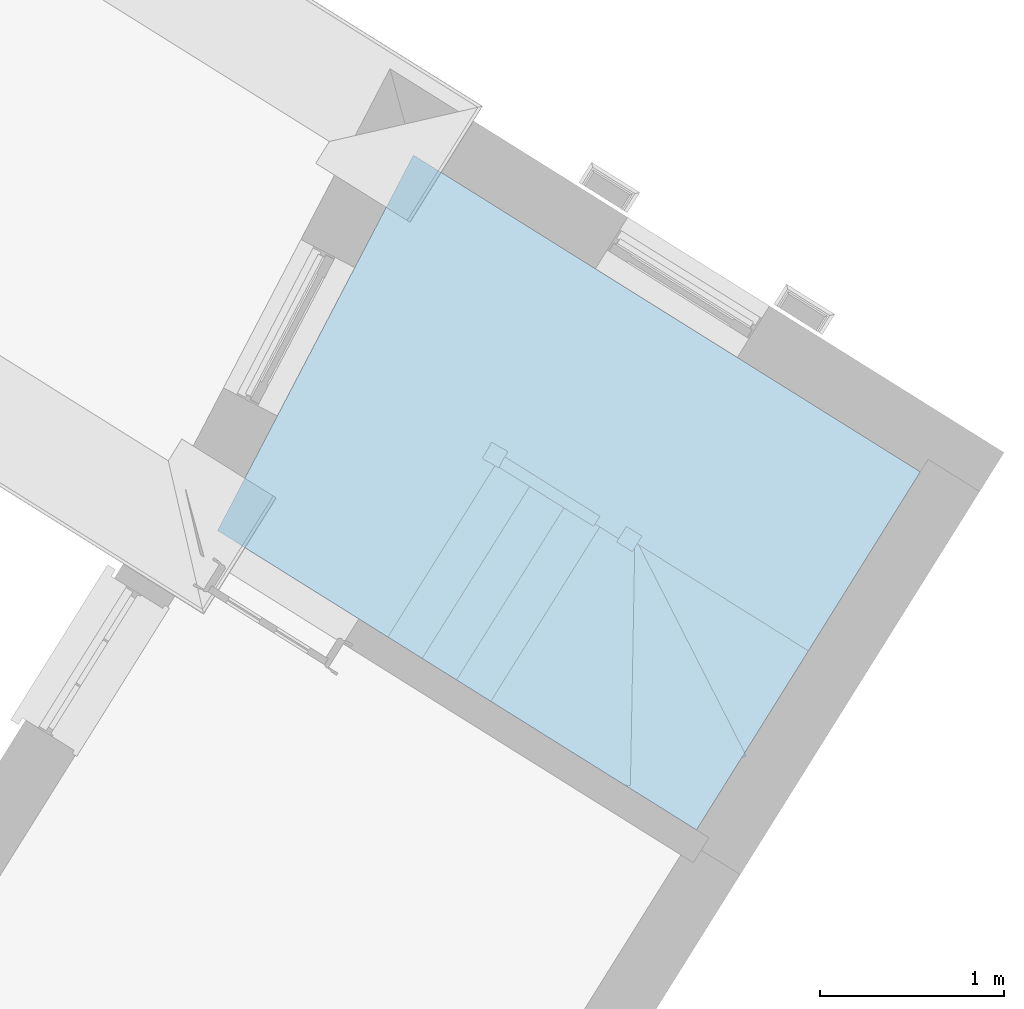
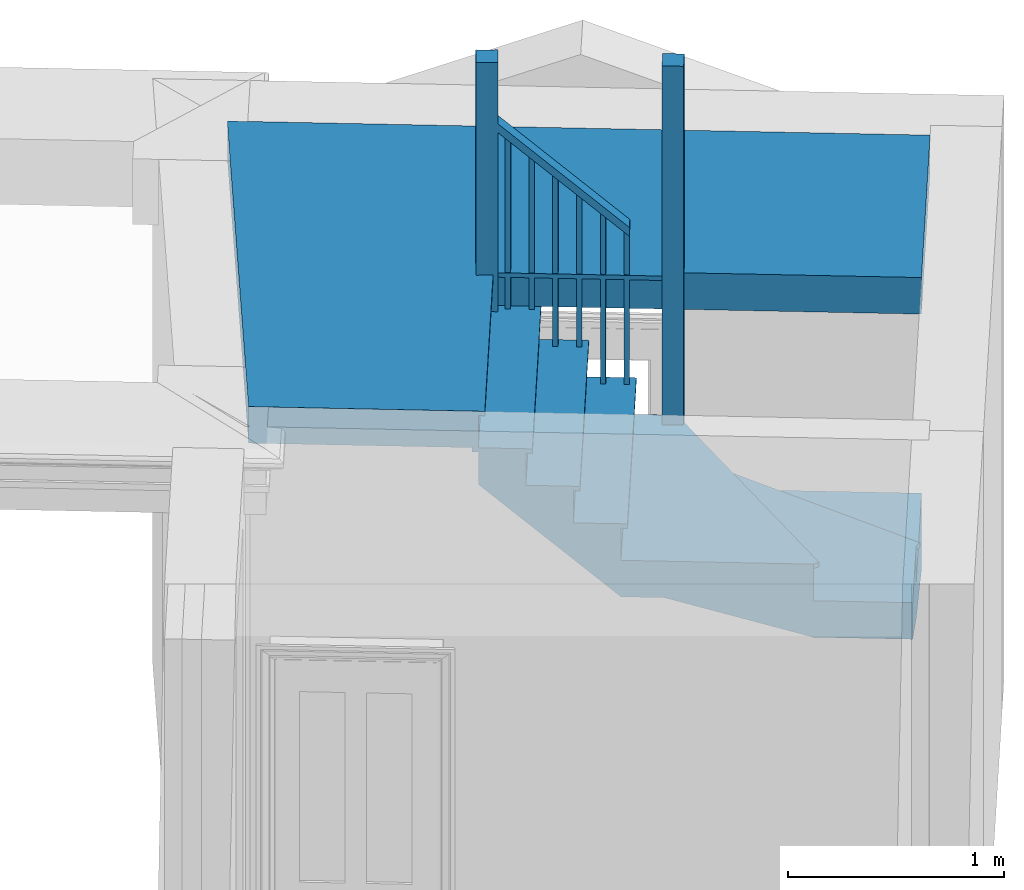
# One storey, part 5 of 5: 1 stair.
"""IFC4 building model written with IfcOpenShell, lengths in metres."""

from ifc_helpers import new_model, si_unit, frame, origin, origin_with_axes, place, context, subcontext, project, spatial, faceted_brep, element, save


model = new_model("IFC4")

# Units and contexts
model_context = context("Model", 3, world=origin_with_axes())
body_context = subcontext(model_context, "Body", "Model", "MODEL_VIEW")
ifc_project = project(units=[si_unit("PLANEANGLEUNIT", "RADIAN"), si_unit("MASSUNIT", "GRAM", prefix="KILO"), si_unit("FORCEUNIT", "NEWTON", prefix="KILO"), si_unit("LENGTHUNIT", "METRE"), si_unit("AREAUNIT", "SQUARE_METRE"), si_unit("VOLUMEUNIT", "CUBIC_METRE")], contexts=[model_context, model_context])

# Sites, building, storey
site_1_placement = place(None, origin_with_axes())
site_1 = spatial("IfcSite", under=ifc_project, at=site_1_placement, Name="Tamar")
site_2_placement = place(site_1_placement, origin_with_axes())
site_2 = spatial("IfcSite", under=site_1, at=site_2_placement, Name="Site plot-3", CompositionType="ELEMENT")
building_placement = place(None, origin_with_axes())
building = spatial("IfcBuilding", under=site_2, at=building_placement, Name="Building plot-3", CompositionType="ELEMENT")
storey_placement = place(None, frame((0.0, 0.0, 24.5), z_axis=(0.0, 0.0, 1.0), x_axis=(1.0, 0.0, 0.0)))
storey = spatial("IfcBuildingStorey", under=building, at=storey_placement, Name="plot-3 0", CompositionType="ELEMENT", Elevation=24.5)

# Stair
stair_placement = place(None, origin())
element("IfcStair", 1, at=stair_placement, inside=storey, Name="Stair", PredefinedType="NOTDEFINED", context=body_context, shape_type="Brep", body=[
    faceted_brep([(217.91361, 286.498894, 27.59375), (216.895579, 287.029978, 27.59375), (216.895579, 287.029978, 27.8), (217.91361, 286.498894, 27.8)], [[[0, 1, 2, 3]], [[1, 0, 3, 2]]]),
    faceted_brep([(217.91361, 286.498894, 27.775), (217.93905, 286.482994, 27.775), (217.91361, 286.498894, 27.8), (217.93905, 286.482994, 27.8)], [[[0, 1, 2]], [[1, 0, 2]], [[1, 3, 2]], [[3, 1, 2]]]),
    faceted_brep([(217.934815, 286.431438, 29.0), (217.981067, 286.520099, 29.0), (217.892406, 286.566351, 29.0), (217.846154, 286.47769, 29.0), (217.846154, 286.47769, 27.8), (217.892406, 286.566351, 27.8), (217.981067, 286.520099, 27.8), (217.934815, 286.431438, 27.8)], [[[0, 1, 2, 3]], [[4, 5, 6, 7]], [[7, 6, 1, 0]], [[6, 5, 2, 1]], [[5, 4, 3, 2]], [[4, 7, 0, 3]]]),
    faceted_brep([(217.91361, 286.498894, 27.8), (216.895579, 287.029978, 27.8), (216.404283, 286.088215, 27.8), (217.305017, 285.525215, 27.8), (217.305017, 285.525215, 27.59375), (216.404283, 286.088215, 27.59375), (216.895579, 287.029978, 27.59375), (217.91361, 286.498894, 27.59375)], [[[0, 1, 2, 3]], [[4, 5, 6, 7]], [[7, 6, 1, 0]], [[6, 5, 2, 1]], [[5, 4, 3, 2]], [[4, 7, 0, 3]]]),
    faceted_brep([(217.330456, 285.509315, 27.775), (217.330456, 285.509315, 27.8), (217.305017, 285.525215, 27.775), (217.93905, 286.482994, 27.8), (217.93905, 286.482994, 27.775), (217.91361, 286.498894, 27.775), (217.305017, 285.525215, 27.8), (217.91361, 286.498894, 27.8)], [[[0, 1, 2]], [[3, 4, 5]], [[2, 1, 6]], [[3, 5, 7]], [[6, 1, 3, 7]], [[2, 6, 7, 5]], [[0, 2, 5, 4]], [[1, 0, 4, 3]]]),
    faceted_brep([(217.934815, 286.431438, 27.8), (217.981067, 286.520099, 27.8), (217.892406, 286.566351, 27.8), (217.846154, 286.47769, 27.8), (217.846154, 286.47769, 27.3), (217.892406, 286.566351, 27.3), (217.981067, 286.520099, 27.3), (217.934815, 286.431438, 27.3)], [[[0, 1, 2, 3]], [[4, 5, 6, 7]], [[7, 6, 1, 0]], [[6, 5, 2, 1]], [[5, 4, 3, 2]], [[4, 7, 0, 3]]]),
    faceted_brep([(217.91361, 286.498894, 27.59375), (217.305017, 285.525215, 27.59375), (217.491573, 285.40861, 27.59375), (218.100166, 286.382289, 27.59375), (218.100166, 286.382289, 27.18125), (217.491573, 285.40861, 27.18125), (217.305017, 285.525215, 27.3875), (217.91361, 286.498894, 27.3875)], [[[0, 1, 2, 3]], [[4, 5, 6, 7]], [[7, 6, 1, 0]], [[1, 6, 5, 2]], [[5, 4, 3, 2]], [[3, 4, 7, 0]]]),
    faceted_brep([(217.491573, 285.40861, 27.56875), (217.517012, 285.392709, 27.56875), (217.491573, 285.40861, 27.59375), (217.279578, 285.541116, 27.56875), (217.305017, 285.525215, 27.56875), (217.305017, 285.525215, 27.59375), (217.517012, 285.392709, 27.59375), (217.279578, 285.541116, 27.59375), (218.141506, 286.391827, 27.59375), (218.100166, 286.382289, 27.59375), (218.100166, 286.382289, 27.56875), (218.141506, 286.391827, 27.56875), (217.904072, 286.540235, 27.59375), (217.91361, 286.498894, 27.59375), (217.91361, 286.498894, 27.56875), (217.904072, 286.540235, 27.56875)], [[[0, 1, 2]], [[3, 4, 5]], [[1, 6, 2]], [[7, 3, 5]], [[2, 6, 8, 9]], [[0, 2, 9, 10]], [[1, 0, 10, 11]], [[6, 1, 11, 8]], [[9, 8, 12, 13]], [[10, 9, 13, 14]], [[11, 10, 14, 15]], [[8, 11, 15, 12]], [[13, 12, 7, 5]], [[14, 13, 5, 4]], [[15, 14, 4, 3]], [[12, 15, 3, 7]]]),
    faceted_brep([(218.100166, 286.382289, 28.49375), (218.078967, 286.395539, 28.49375), (218.065716, 286.37434, 28.49375), (218.086916, 286.361089, 28.49375), (218.086916, 286.361089, 27.59375), (218.065716, 286.37434, 27.59375), (218.078967, 286.395539, 27.59375), (218.100166, 286.382289, 27.59375)], [[[0, 1, 2, 3]], [[4, 5, 6, 7]], [[7, 6, 1, 0]], [[6, 5, 2, 1]], [[5, 4, 3, 2]], [[4, 7, 0, 3]]]),
    faceted_brep([(218.006888, 286.440591, 28.596875), (217.985689, 286.453842, 28.596875), (217.972438, 286.432643, 28.596875), (217.993638, 286.419392, 28.596875), (217.993638, 286.419392, 27.59375), (217.972438, 286.432643, 27.59375), (217.985689, 286.453842, 27.59375), (218.006888, 286.440591, 27.59375)], [[[0, 1, 2, 3]], [[4, 5, 6, 7]], [[7, 6, 1, 0]], [[6, 5, 2, 1]], [[5, 4, 3, 2]], [[4, 7, 0, 3]]]),
    faceted_brep([(218.076315, 286.344129, 28.44375), (218.110767, 286.399248, 28.44375), (218.110767, 286.399248, 28.49375), (218.076315, 286.344129, 28.49375), (217.924211, 286.515854, 28.65), (217.889759, 286.460735, 28.65), (217.889759, 286.460735, 28.7), (217.924211, 286.515854, 28.7)], [[[0, 1, 2, 3]], [[4, 5, 6, 7]], [[0, 5, 4, 1]], [[3, 2, 7, 6]], [[0, 3, 6, 5]], [[2, 1, 4, 7]]]),
    faceted_brep([(218.100166, 286.382289, 27.3875), (217.491573, 285.40861, 27.3875), (217.678129, 285.292004, 27.3875), (218.286722, 286.265683, 27.3875), (218.286722, 286.265683, 26.975), (217.678129, 285.292004, 26.975), (217.491573, 285.40861, 27.18125), (218.100166, 286.382289, 27.18125)], [[[0, 1, 2, 3]], [[4, 5, 6, 7]], [[7, 6, 1, 0]], [[1, 6, 5, 2]], [[5, 4, 3, 2]], [[3, 4, 7, 0]]]),
    faceted_brep([(217.678129, 285.292004, 27.3625), (217.703568, 285.276103, 27.3625), (217.678129, 285.292004, 27.3875), (217.466133, 285.42451, 27.3625), (217.491573, 285.40861, 27.3625), (217.491573, 285.40861, 27.3875), (217.703568, 285.276103, 27.3875), (217.466133, 285.42451, 27.3875), (218.328062, 286.275221, 27.3875), (218.286722, 286.265683, 27.3875), (218.286722, 286.265683, 27.3625), (218.328062, 286.275221, 27.3625), (218.090628, 286.423629, 27.3875), (218.100166, 286.382289, 27.3875), (218.100166, 286.382289, 27.3625), (218.090628, 286.423629, 27.3625)], [[[0, 1, 2]], [[3, 4, 5]], [[1, 6, 2]], [[7, 3, 5]], [[2, 6, 8, 9]], [[0, 2, 9, 10]], [[1, 0, 10, 11]], [[6, 1, 11, 8]], [[9, 8, 12, 13]], [[10, 9, 13, 14]], [[11, 10, 14, 15]], [[8, 11, 15, 12]], [[13, 12, 7, 5]], [[14, 13, 5, 4]], [[15, 14, 4, 3]], [[12, 15, 3, 7]]]),
    faceted_brep([(218.286722, 286.265683, 28.2875), (218.265523, 286.278933, 28.2875), (218.252272, 286.257734, 28.2875), (218.273471, 286.244483, 28.2875), (218.273471, 286.244483, 27.3875), (218.252272, 286.257734, 27.3875), (218.265523, 286.278933, 27.3875), (218.286722, 286.265683, 27.3875)], [[[0, 1, 2, 3]], [[4, 5, 6, 7]], [[7, 6, 1, 0]], [[6, 5, 2, 1]], [[5, 4, 3, 2]], [[4, 7, 0, 3]]]),
    faceted_brep([(218.193444, 286.323986, 28.390625), (218.172245, 286.337236, 28.390625), (218.158994, 286.316037, 28.390625), (218.180193, 286.302786, 28.390625), (218.180193, 286.302786, 27.3875), (218.158994, 286.316037, 27.3875), (218.172245, 286.337236, 27.3875), (218.193444, 286.323986, 27.3875)], [[[0, 1, 2, 3]], [[4, 5, 6, 7]], [[7, 6, 1, 0]], [[6, 5, 2, 1]], [[5, 4, 3, 2]], [[4, 7, 0, 3]]]),
    faceted_brep([(218.262871, 286.227524, 28.2375), (218.297323, 286.282642, 28.2375), (218.297323, 286.282642, 28.2875), (218.262871, 286.227524, 28.2875), (218.110767, 286.399248, 28.44375), (218.076315, 286.344129, 28.44375), (218.076315, 286.344129, 28.49375), (218.110767, 286.399248, 28.49375)], [[[0, 1, 2, 3]], [[4, 5, 6, 7]], [[0, 5, 4, 1]], [[3, 2, 7, 6]], [[0, 3, 6, 5]], [[2, 1, 4, 7]]]),
    faceted_brep([(218.286722, 286.265683, 27.18125), (217.678129, 285.292004, 27.18125), (217.864684, 285.175398, 27.18125), (218.473278, 286.149077, 27.18125), (218.473278, 286.149077, 26.76875), (217.864684, 285.175398, 26.76875), (217.678129, 285.292004, 26.975), (218.286722, 286.265683, 26.975)], [[[0, 1, 2, 3]], [[4, 5, 6, 7]], [[7, 6, 1, 0]], [[1, 6, 5, 2]], [[5, 4, 3, 2]], [[3, 4, 7, 0]]]),
    faceted_brep([(217.890124, 285.159497, 27.15625), (217.890124, 285.159497, 27.18125), (217.864684, 285.175398, 27.15625), (217.652689, 285.307905, 27.18125), (217.652689, 285.307905, 27.15625), (217.678129, 285.292004, 27.15625), (217.864684, 285.175398, 27.18125), (217.678129, 285.292004, 27.18125), (218.514618, 286.158616, 27.18125), (218.473278, 286.149077, 27.18125), (218.473278, 286.149077, 27.15625), (218.514618, 286.158616, 27.15625), (218.277183, 286.307023, 27.18125), (218.286722, 286.265683, 27.18125), (218.286722, 286.265683, 27.15625), (218.277183, 286.307023, 27.15625)], [[[0, 1, 2]], [[3, 4, 5]], [[2, 1, 6]], [[3, 5, 7]], [[6, 1, 8, 9]], [[2, 6, 9, 10]], [[0, 2, 10, 11]], [[1, 0, 11, 8]], [[9, 8, 12, 13]], [[10, 9, 13, 14]], [[11, 10, 14, 15]], [[8, 11, 15, 12]], [[13, 12, 3, 7]], [[14, 13, 7, 5]], [[15, 14, 5, 4]], [[12, 15, 4, 3]]]),
    faceted_brep([(218.473278, 286.149077, 28.08125), (218.452078, 286.162328, 28.08125), (218.438828, 286.141128, 28.08125), (218.460027, 286.127877, 28.08125), (218.460027, 286.127877, 27.18125), (218.438828, 286.141128, 27.18125), (218.452078, 286.162328, 27.18125), (218.473278, 286.149077, 27.18125)], [[[0, 1, 2, 3]], [[4, 5, 6, 7]], [[7, 6, 1, 0]], [[6, 5, 2, 1]], [[5, 4, 3, 2]], [[4, 7, 0, 3]]]),
    faceted_brep([(218.38, 286.20738, 28.184375), (218.3588, 286.22063, 28.184375), (218.34555, 286.199431, 28.184375), (218.366749, 286.18618, 28.184375), (218.366749, 286.18618, 27.18125), (218.34555, 286.199431, 27.18125), (218.3588, 286.22063, 27.18125), (218.38, 286.20738, 27.18125)], [[[0, 1, 2, 3]], [[4, 5, 6, 7]], [[7, 6, 1, 0]], [[6, 5, 2, 1]], [[5, 4, 3, 2]], [[4, 7, 0, 3]]]),
    faceted_brep([(218.449427, 286.110918, 28.03125), (218.483878, 286.166037, 28.03125), (218.483878, 286.166037, 28.08125), (218.449427, 286.110918, 28.08125), (218.297323, 286.282642, 28.2375), (218.262871, 286.227524, 28.2375), (218.262871, 286.227524, 28.2875), (218.297323, 286.282642, 28.2875)], [[[0, 1, 2, 3]], [[4, 5, 6, 7]], [[0, 5, 4, 1]], [[3, 2, 7, 6]], [[0, 3, 6, 5]], [[2, 1, 4, 7]]]),
    faceted_brep([(218.473278, 286.149077, 26.975), (217.864684, 285.175398, 26.975), (218.03521, 285.068812, 26.975), (218.643804, 286.042491, 26.975), (218.643804, 286.042491, 26.76875), (218.03521, 285.068812, 26.76875), (217.864684, 285.175398, 26.76875), (218.473278, 286.149077, 26.76875)], [[[0, 1, 2, 3]], [[4, 5, 6, 7]], [[7, 6, 1, 0]], [[6, 5, 2, 1]], [[5, 4, 3, 2]], [[4, 7, 0, 3]]]),
    faceted_brep([(218.643804, 286.042491, 26.95), (218.659704, 286.06793, 26.95), (218.643804, 286.042491, 26.975), (218.489179, 286.174516, 26.95), (218.473278, 286.149077, 26.95), (218.473278, 286.149077, 26.975), (218.659704, 286.06793, 26.975), (218.489179, 286.174516, 26.975)], [[[0, 1, 2]], [[3, 4, 5]], [[1, 6, 2]], [[7, 3, 5]], [[2, 6, 7, 5]], [[0, 2, 5, 4]], [[1, 0, 4, 3]], [[6, 1, 3, 7]]]),
    faceted_brep([(218.712704, 286.058388, 28.175), (218.627906, 286.111391, 28.175), (218.574903, 286.026593, 28.175), (218.659701, 285.97359, 28.175), (218.659701, 285.97359, 26.975), (218.574903, 286.026593, 26.975), (218.627906, 286.111391, 26.975), (218.712704, 286.058388, 26.975)], [[[0, 1, 2, 3]], [[4, 5, 6, 7]], [[7, 6, 1, 0]], [[6, 5, 2, 1]], [[5, 4, 3, 2]], [[4, 7, 0, 3]]]),
    faceted_brep([(218.03521, 285.068812, 26.975), (218.619418, 284.703656, 26.975), (218.643804, 286.042491, 26.975), (218.643804, 286.042491, 26.5625), (218.619418, 284.703656, 26.5625), (218.03521, 285.068812, 26.76875)], [[[0, 1, 2]], [[3, 4, 5]], [[0, 5, 4, 1]], [[4, 3, 2, 1]], [[2, 3, 5, 0]]]),
    faceted_brep([(218.619418, 284.703656, 26.95), (218.649413, 284.703109, 26.95), (218.619418, 284.703656, 26.975), (218.673799, 286.041944, 26.95), (218.643804, 286.042491, 26.95), (218.643804, 286.042491, 26.975), (218.649413, 284.703109, 26.975), (218.673799, 286.041944, 26.975)], [[[0, 1, 2]], [[3, 4, 5]], [[1, 6, 2]], [[7, 3, 5]], [[2, 6, 7, 5]], [[0, 2, 5, 4]], [[1, 0, 4, 3]], [[6, 1, 3, 7]]]),
    faceted_brep([(218.619418, 284.703656, 26.76875), (219.008889, 284.460218, 26.76875), (219.252327, 284.84969, 26.76875), (218.643804, 286.042491, 26.76875), (218.643804, 286.042491, 26.35625), (219.252327, 284.84969, 26.35625), (219.008889, 284.460218, 26.5625), (218.619418, 284.703656, 26.5625)], [[[0, 1, 2, 3]], [[4, 5, 6, 7]], [[7, 6, 1, 0]], [[1, 6, 5, 2]], [[5, 4, 3, 2]], [[3, 4, 7, 0]]]),
    faceted_brep([(219.252327, 284.84969, 26.74375), (219.27905, 284.863323, 26.74375), (219.252327, 284.84969, 26.76875), (218.670527, 286.056124, 26.74375), (218.643804, 286.042491, 26.74375), (218.643804, 286.042491, 26.76875), (219.27905, 284.863323, 26.76875), (218.670527, 286.056124, 26.76875)], [[[0, 1, 2]], [[3, 4, 5]], [[1, 6, 2]], [[7, 3, 5]], [[2, 6, 7, 5]], [[0, 2, 5, 4]], [[1, 0, 4, 3]], [[6, 1, 3, 7]]]),
    faceted_brep([(219.252327, 284.84969, 26.5625), (219.617483, 285.433897, 26.5625), (218.643804, 286.042491, 26.5625), (218.643804, 286.042491, 26.15), (219.617483, 285.433897, 26.15), (219.252327, 284.84969, 26.35625)], [[[0, 1, 2]], [[3, 4, 5]], [[0, 5, 4, 1]], [[4, 3, 2, 1]], [[2, 3, 5, 0]]]),
    faceted_brep([(219.633383, 285.459337, 26.5375), (219.633383, 285.459337, 26.5625), (219.617483, 285.433897, 26.5375), (218.659704, 286.06793, 26.5625), (218.659704, 286.06793, 26.5375), (218.643804, 286.042491, 26.5375), (219.617483, 285.433897, 26.5625), (218.643804, 286.042491, 26.5625)], [[[0, 1, 2]], [[3, 4, 5]], [[2, 1, 6]], [[3, 5, 7]], [[6, 1, 3, 7]], [[2, 6, 7, 5]], [[0, 2, 5, 4]], [[1, 0, 4, 3]]]),
    faceted_brep([(218.712704, 286.058388, 26.975), (218.627906, 286.111391, 26.975), (218.574903, 286.026593, 26.975), (218.659701, 285.97359, 26.975), (218.659701, 285.97359, 26.0625), (218.574903, 286.026593, 26.0625), (218.627906, 286.111391, 26.0625), (218.712704, 286.058388, 26.0625)], [[[0, 1, 2, 3]], [[4, 5, 6, 7]], [[7, 6, 1, 0]], [[6, 5, 2, 1]], [[5, 4, 3, 2]], [[4, 7, 0, 3]]]),
    faceted_brep([(218.643804, 286.042491, 26.15), (219.617483, 285.433897, 26.15), (219.617483, 285.433897, 26.35625), (218.643804, 286.042491, 26.35625)], [[[0, 1, 2, 3]], [[1, 0, 3, 2]]]),
    faceted_brep([(218.619392, 286.059928, 26.33125), (218.619392, 286.059928, 26.35625), (218.643804, 286.042491, 26.33125), (218.643804, 286.042491, 26.35625)], [[[0, 1, 2]], [[1, 0, 2]], [[2, 1, 3]], [[1, 2, 3]]]),
    faceted_brep([(218.627906, 286.111391, 29.0), (218.574903, 286.026593, 29.0), (218.659701, 285.97359, 29.0), (218.712704, 286.058388, 29.0), (218.712704, 286.058388, 27.8), (218.659701, 285.97359, 27.8), (218.574903, 286.026593, 27.8), (218.627906, 286.111391, 27.8)], [[[0, 1, 2, 3]], [[4, 5, 6, 7]], [[7, 6, 1, 0]], [[6, 5, 2, 1]], [[5, 4, 3, 2]], [[4, 7, 0, 3]]]),
    faceted_brep([(218.643804, 286.042491, 27.8), (219.617483, 285.433897, 27.8), (220.226076, 286.407576, 27.8), (219.252397, 287.01617, 27.8), (219.252397, 287.01617, 27.59375), (220.226076, 286.407576, 27.59375), (219.617483, 285.433897, 27.59375), (218.643804, 286.042491, 27.59375)], [[[0, 1, 2, 3]], [[4, 5, 6, 7]], [[7, 6, 1, 0]], [[6, 5, 2, 1]], [[5, 4, 3, 2]], [[4, 7, 0, 3]]]),
    faceted_brep([(219.252397, 287.01617, 27.775), (219.226958, 287.03207, 27.775), (219.252397, 287.01617, 27.8), (218.618364, 286.058391, 27.775), (218.643804, 286.042491, 27.775), (218.643804, 286.042491, 27.8), (219.226958, 287.03207, 27.8), (218.618364, 286.058391, 27.8)], [[[0, 1, 2]], [[3, 4, 5]], [[1, 6, 2]], [[7, 3, 5]], [[2, 6, 7, 5]], [[0, 2, 5, 4]], [[1, 0, 4, 3]], [[6, 1, 3, 7]]]),
    faceted_brep([(218.627906, 286.111391, 27.8), (218.574903, 286.026593, 27.8), (218.659701, 285.97359, 27.8), (218.712704, 286.058388, 27.8), (218.712704, 286.058388, 27.3), (218.659701, 285.97359, 27.3), (218.574903, 286.026593, 27.3), (218.627906, 286.111391, 27.3)], [[[0, 1, 2, 3]], [[4, 5, 6, 7]], [[7, 6, 1, 0]], [[6, 5, 2, 1]], [[5, 4, 3, 2]], [[4, 7, 0, 3]]]),
    faceted_brep([(218.643804, 286.042491, 27.8), (219.252397, 287.01617, 27.8), (218.522204, 287.472573, 27.8), (217.91361, 286.498894, 27.8), (217.91361, 286.498894, 27.59375), (218.522204, 287.472573, 27.59375), (219.252397, 287.01617, 27.59375), (218.643804, 286.042491, 27.59375)], [[[0, 1, 2, 3]], [[4, 5, 6, 7]], [[7, 6, 1, 0]], [[6, 5, 2, 1]], [[5, 4, 3, 2]], [[4, 7, 0, 3]]]),
    faceted_brep([(217.91361, 286.498894, 27.775), (217.89771, 286.473455, 27.775), (217.91361, 286.498894, 27.8), (218.627903, 286.017051, 27.775), (218.643804, 286.042491, 27.775), (218.643804, 286.042491, 27.8), (217.89771, 286.473455, 27.8), (218.627903, 286.017051, 27.8)], [[[0, 1, 2]], [[3, 4, 5]], [[1, 6, 2]], [[7, 3, 5]], [[2, 6, 7, 5]], [[0, 2, 5, 4]], [[1, 0, 4, 3]], [[6, 1, 3, 7]]]),
    faceted_brep([(217.84471, 286.482997, 29.0), (217.929508, 286.429994, 29.0), (217.982511, 286.514792, 29.0), (217.897713, 286.567795, 29.0), (217.897713, 286.567795, 27.8), (217.982511, 286.514792, 27.8), (217.929508, 286.429994, 27.8), (217.84471, 286.482997, 27.8)], [[[0, 1, 2, 3]], [[4, 5, 6, 7]], [[7, 6, 1, 0]], [[6, 5, 2, 1]], [[5, 4, 3, 2]], [[4, 7, 0, 3]]]),
    faceted_brep([(217.91361, 286.498894, 27.8), (218.522204, 287.472573, 27.8), (217.469672, 288.130453, 27.8), (216.895579, 287.029978, 27.8), (216.895579, 287.029978, 27.59375), (217.469672, 288.130453, 27.59375), (218.522204, 287.472573, 27.59375), (217.91361, 286.498894, 27.59375)], [[[0, 1, 2, 3]], [[4, 5, 6, 7]], [[7, 6, 1, 0]], [[6, 5, 2, 1]], [[5, 4, 3, 2]], [[4, 7, 0, 3]]]),
    faceted_brep([(216.881704, 287.003379, 27.775), (216.881704, 287.003379, 27.8), (216.895579, 287.029978, 27.775), (217.899735, 286.472296, 27.8), (217.899735, 286.472296, 27.775), (217.91361, 286.498894, 27.775), (216.895579, 287.029978, 27.8), (217.91361, 286.498894, 27.8)], [[[0, 1, 2]], [[3, 4, 5]], [[2, 1, 6]], [[3, 5, 7]], [[6, 1, 3, 7]], [[2, 6, 7, 5]], [[0, 2, 5, 4]], [[1, 0, 4, 3]]]),
    faceted_brep([(217.84471, 286.482997, 27.8), (217.929508, 286.429994, 27.8), (217.982511, 286.514792, 27.8), (217.897713, 286.567795, 27.8), (217.897713, 286.567795, 27.3), (217.982511, 286.514792, 27.3), (217.929508, 286.429994, 27.3), (217.84471, 286.482997, 27.3)], [[[0, 1, 2, 3]], [[4, 5, 6, 7]], [[7, 6, 1, 0]], [[6, 5, 2, 1]], [[5, 4, 3, 2]], [[4, 7, 0, 3]]]),
])

save(model, "model.ifc")
